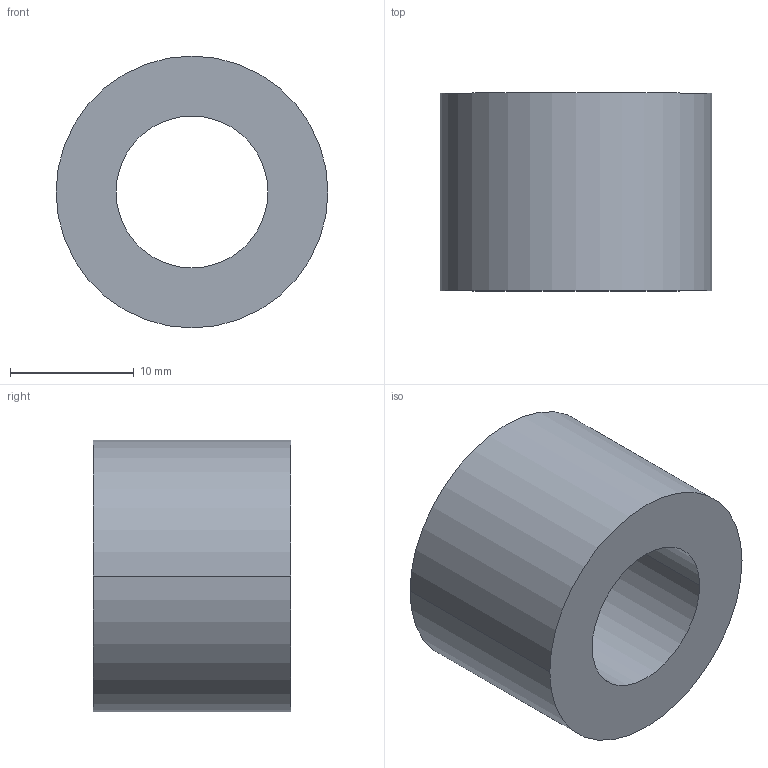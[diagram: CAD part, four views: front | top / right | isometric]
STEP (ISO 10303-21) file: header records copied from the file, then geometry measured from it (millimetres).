
FILE_DESCRIPTION (( 'STEP AP203' ), '1' );
FILE_NAME ('30800.WPP22F12.3.step', '2019-01-23T22:39:11', ( '' ), ( '' ), 'SwSTEP 2.0', 'SolidWorks 2017', '' );
FILE_SCHEMA (( 'CONFIG_CONTROL_DESIGN' ));
Length unit declared in the file: millimetre
Products named in the file (1): 30800.WPP22F12.3
Bounding box: 22 x 16 x 22 mm (x, y, z)
Volume: 4145.4 mm3; surface area: 2215.3 mm2
Topology: 1 solids, 1 shells, 8 faces, 16 edges, 10 vertices
Faces by surface type: cylinder 4, torus 2, plane 2
Entity records: 297 total; most frequent: DIRECTION 46, CARTESIAN_POINT 35, ORIENTED_EDGE 32, AXIS2_PLACEMENT_3D 21, EDGE_CURVE 16, CIRCLE 12, EDGE_LOOP 10, VERTEX_POINT 10
